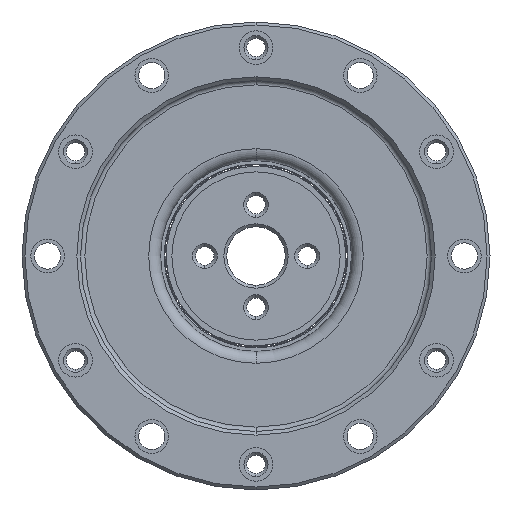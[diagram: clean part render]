
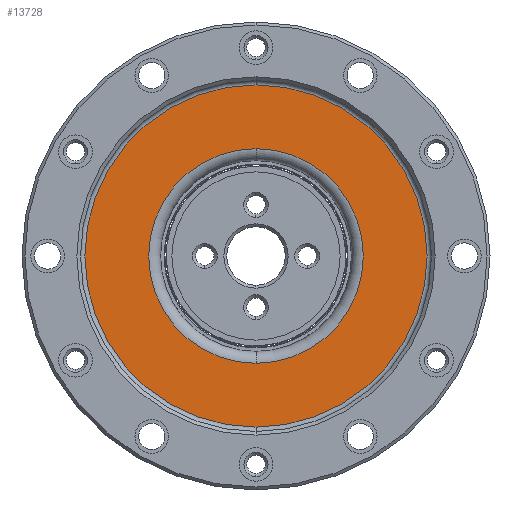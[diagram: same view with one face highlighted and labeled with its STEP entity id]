
A CAD part, left-side view. The second image highlights one B-rep face of the part: STEP entity #13728.
In plain terms, the highlighted planar face has unit normal (-1, 0, 0).
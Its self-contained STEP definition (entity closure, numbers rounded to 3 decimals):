
#1173 = EDGE_LOOP ( 'NONE', ( #18927, #14877 ) ) ;
#1590 = VERTEX_POINT ( 'NONE', #6328 ) ;
#2167 = EDGE_CURVE ( 'NONE', #8971, #21540, #10231, .T. ) ;
#2877 = EDGE_LOOP ( 'NONE', ( #8080, #15862 ) ) ;
#3282 = DIRECTION ( 'NONE',  ( 0., 0., -1. ) ) ;
#3316 = CARTESIAN_POINT ( 'NONE',  ( -9.09, 0., -7.34 ) ) ;
#3472 = CARTESIAN_POINT ( 'NONE',  ( -9.09, -7.34, 0. ) ) ;
#4837 = CARTESIAN_POINT ( 'NONE',  ( -9.09, 0., 0. ) ) ;
#4975 = DIRECTION ( 'NONE',  ( 1., 0., 0. ) ) ;
#4996 = CARTESIAN_POINT ( 'NONE',  ( -9.09, 0., 0. ) ) ;
#5199 = DIRECTION ( 'NONE',  ( 1., 0., 0. ) ) ;
#5258 = CARTESIAN_POINT ( 'NONE',  ( -9.09, 0., -11.7 ) ) ;
#5593 = AXIS2_PLACEMENT_3D ( 'NONE', #3472, #8579, #20317 ) ;
#5647 = EDGE_CURVE ( 'NONE', #21540, #8971, #16573, .T. ) ;
#6176 = FACE_OUTER_BOUND ( 'NONE', #2877, .T. ) ;
#6328 = CARTESIAN_POINT ( 'NONE',  ( -9.09, 0., 7.34 ) ) ;
#6526 = DIRECTION ( 'NONE',  ( 0., 0., -1. ) ) ;
#6879 = PLANE ( 'NONE',  #5593 ) ;
#8080 = ORIENTED_EDGE ( 'NONE', *, *, #2167, .F. ) ;
#8579 = DIRECTION ( 'NONE',  ( 1., 0., 0. ) ) ;
#8971 = VERTEX_POINT ( 'NONE', #5258 ) ;
#9357 = DIRECTION ( 'NONE',  ( 1., 0., 0. ) ) ;
#10174 = CIRCLE ( 'NONE', #13451, 7.34 ) ;
#10231 = CIRCLE ( 'NONE', #19296, 11.7 ) ;
#11853 = EDGE_CURVE ( 'NONE', #1590, #15429, #10174, .T. ) ;
#13451 = AXIS2_PLACEMENT_3D ( 'NONE', #19417, #9357, #21110 ) ;
#13728 = ADVANCED_FACE ( 'NONE', ( #6176, #19066 ), #6879, .F. ) ;
#14210 = CARTESIAN_POINT ( 'NONE',  ( -9.09, 0., 11.7 ) ) ;
#14726 = AXIS2_PLACEMENT_3D ( 'NONE', #4996, #15063, #3282 ) ;
#14877 = ORIENTED_EDGE ( 'NONE', *, *, #11853, .T. ) ;
#15048 = CARTESIAN_POINT ( 'NONE',  ( -9.09, 0., 0. ) ) ;
#15063 = DIRECTION ( 'NONE',  ( 1., 0., 0. ) ) ;
#15429 = VERTEX_POINT ( 'NONE', #3316 ) ;
#15862 = ORIENTED_EDGE ( 'NONE', *, *, #5647, .F. ) ;
#16573 = CIRCLE ( 'NONE', #14726, 11.7 ) ;
#16730 = DIRECTION ( 'NONE',  ( 0., 0., -1. ) ) ;
#18463 = EDGE_CURVE ( 'NONE', #15429, #1590, #20822, .T. ) ;
#18925 = AXIS2_PLACEMENT_3D ( 'NONE', #15048, #4975, #16730 ) ;
#18927 = ORIENTED_EDGE ( 'NONE', *, *, #18463, .T. ) ;
#19066 = FACE_BOUND ( 'NONE', #1173, .T. ) ;
#19296 = AXIS2_PLACEMENT_3D ( 'NONE', #4837, #5199, #6526 ) ;
#19417 = CARTESIAN_POINT ( 'NONE',  ( -9.09, 0., 0. ) ) ;
#20317 = DIRECTION ( 'NONE',  ( 0., 0., -1. ) ) ;
#20822 = CIRCLE ( 'NONE', #18925, 7.34 ) ;
#21110 = DIRECTION ( 'NONE',  ( 0., 0., -1. ) ) ;
#21540 = VERTEX_POINT ( 'NONE', #14210 ) ;
